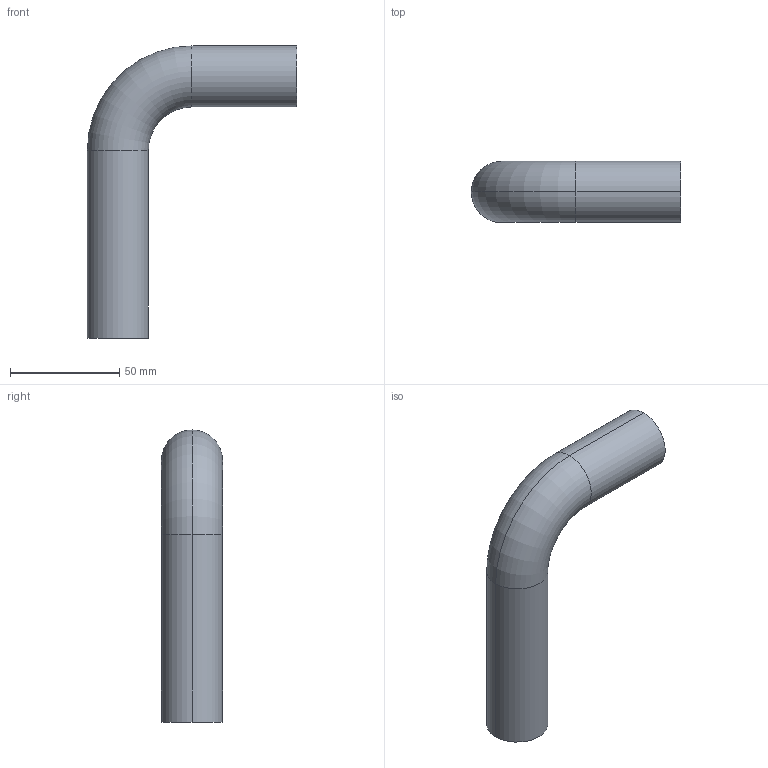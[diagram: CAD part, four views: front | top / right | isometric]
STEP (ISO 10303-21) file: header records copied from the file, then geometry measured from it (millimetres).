
FILE_DESCRIPTION(('OneSpaceDesigner STEP Export'),'2;1');
FILE_NAME('C1425 28x28.stp','2010-06-15T15:34:30',(''),(''),'OneSpace Designer STEP processor for AP214 (Solid Model)','OneSpace Modeling 15.00A 14-Mar-2007 (C) CoCreate Software GmbH','');
FILE_SCHEMA(('AUTOMOTIVE_DESIGN { 1 0 10303 214 1 1 1 1 }'));
Length unit declared in the file: millimetre
Products named in the file (2): C1425_28x28
Assembly tree (1 placements, depth 2):
  C1425_28x28
    C1425_28x28
Bounding box: 96 x 28 x 134 mm (x, y, z)
Volume: 23403.1 mm3; surface area: 31453.9 mm2
Topology: 1 solids, 1 shells, 14 faces, 29 edges, 17 vertices
Faces by surface type: cylinder 8, torus 4, plane 2
Entity records: 362 total; most frequent: ORIENTED_EDGE 58, DIRECTION 56, CARTESIAN_POINT 49, EDGE_CURVE 29, AXIS2_PLACEMENT_3D 24, VERTEX_POINT 17, EDGE_LOOP 16, CIRCLE 14
